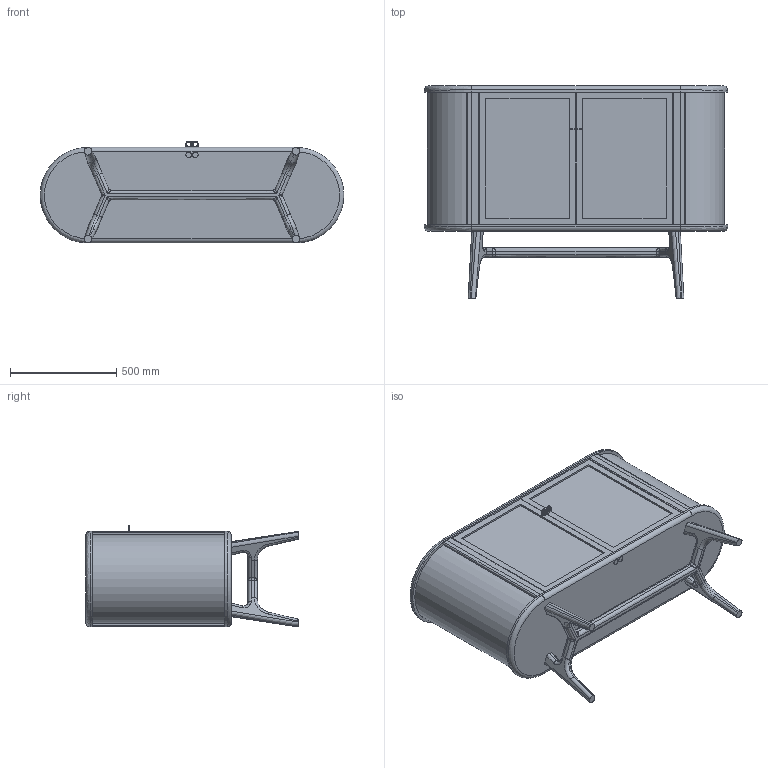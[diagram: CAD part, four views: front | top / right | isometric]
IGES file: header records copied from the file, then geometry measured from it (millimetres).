
Start section: SolidWorks IGES file using analytic representation for surfaces
Global section: file name: R:\Box Sync\Neri & Hu\789 Solo Vitrines\sales related\IGES\Sales Related_Solo Glass Cabinet_VC_prmt.IGS; native system: SolidWorks 2016; preprocessor: SolidWorks 2016; author: ruben; date: 180201.115643; units: millimetre
Bounding box: 1430 x 1000 x 479.84 mm (x, y, z)
Volume: 64205972 mm3; surface area: 9712758 mm2
Topology: 22 solids, 22 shells, 589 faces, 1408 edges, 858 vertices
Faces by surface type: plane 295, revolution 266, bspline 28
